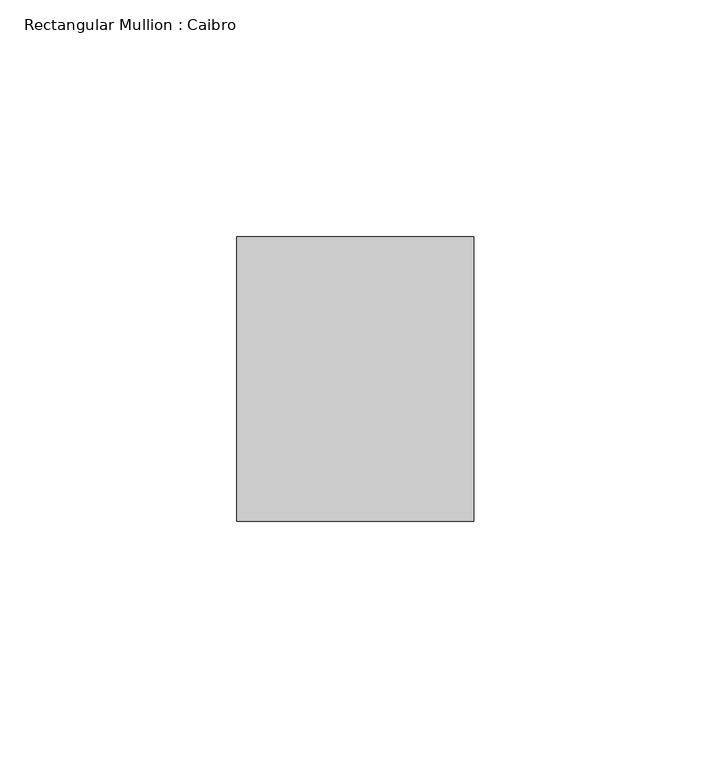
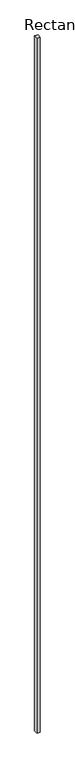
"""IFC4 building model written with IfcOpenShell, lengths in millimetres: member geometry, Rectangular Mullion : Caibro."""

from ifc_helpers import new_model, si_unit, frame, origin, place, context, project, spatial, polyline, outline, extrude, source, transform, mapped, element, save


def rectangular_mullion_caibro_4571a72a(model_context):
    return source(origin(), model_context, "Body", "SweptSolid", [
        extrude(outline(polyline([(-50.0, -60.0), (-50.0, 0.0), (0.0, 0.0), (0.0, -60.0), (-50.0, -60.0)])), frame((0.0, 0.0, -11882.614899), z_axis=(0.0, 0.0, 1.0), x_axis=(1.0, 0.0, 0.0)), (0.0, 0.0, 1.0), 11882.614899),
    ])


if __name__ == "__main__":
    model = new_model("IFC4")
    model_context = context("Model", 3, world=origin())
    ifc_project = project(units=[si_unit("LENGTHUNIT", "METRE", prefix="MILLI")], contexts=[model_context])
    site = spatial("IfcSite", under=ifc_project)
    building = spatial("IfcBuilding", under=site)
    placement = place(None, origin())
    rectangular_mullion_caibro_shape = rectangular_mullion_caibro_4571a72a(model_context)
    element("IfcMember", 1, ObjectType="Rectangular Mullion : Caibro", at=placement, inside=building, context=model_context, shape_type="MappedRepresentation", body=[
        mapped(rectangular_mullion_caibro_shape, transform((0.0, 0.0, 0.0), x_axis=(1.0, 0.0, 0.0), y_axis=(0.0, 1.0, 0.0), z_axis=(0.0, 0.0, 1.0))),
    ])
    save(model, "model.ifc")
